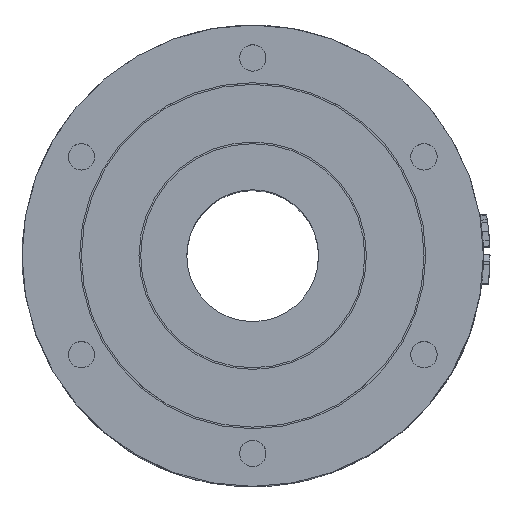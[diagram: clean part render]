
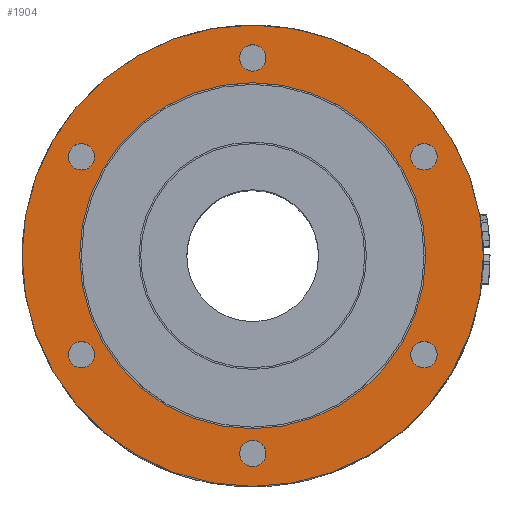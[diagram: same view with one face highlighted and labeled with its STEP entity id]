
A CAD part, top view. The second image highlights one B-rep face of the part: STEP entity #1904.
In plain terms, the highlighted planar face has unit normal (0, 0, 1).
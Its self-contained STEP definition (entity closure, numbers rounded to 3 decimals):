
#193=PLANE('',#7095);
#1904=ADVANCED_FACE('',(#2692,#2693,#2694,#2695,#2696,#2697,#2698,#2699),
#193,.F.);
#2692=FACE_BOUND('',#3149,.T.);
#2693=FACE_BOUND('',#3150,.T.);
#2694=FACE_BOUND('',#3151,.T.);
#2695=FACE_BOUND('',#3152,.T.);
#2696=FACE_BOUND('',#3153,.T.);
#2697=FACE_BOUND('',#3154,.T.);
#2698=FACE_BOUND('',#3155,.T.);
#2699=FACE_BOUND('',#3156,.T.);
#3149=EDGE_LOOP('',(#4665));
#3150=EDGE_LOOP('',(#4666));
#3151=EDGE_LOOP('',(#4667));
#3152=EDGE_LOOP('',(#4668));
#3153=EDGE_LOOP('',(#4669));
#3154=EDGE_LOOP('',(#4670));
#3155=EDGE_LOOP('',(#4671));
#3156=EDGE_LOOP('',(#4672));
#4665=ORIENTED_EDGE('',*,*,#6640,.F.);
#4666=ORIENTED_EDGE('',*,*,#6641,.F.);
#4667=ORIENTED_EDGE('',*,*,#6642,.F.);
#4668=ORIENTED_EDGE('',*,*,#6643,.F.);
#4669=ORIENTED_EDGE('',*,*,#6644,.F.);
#4670=ORIENTED_EDGE('',*,*,#6645,.F.);
#4671=ORIENTED_EDGE('',*,*,#6646,.F.);
#4672=ORIENTED_EDGE('',*,*,#6630,.F.);
#5737=VERTEX_POINT('',#15241);
#5747=VERTEX_POINT('',#15262);
#5748=VERTEX_POINT('',#15264);
#5749=VERTEX_POINT('',#15266);
#5750=VERTEX_POINT('',#15268);
#5751=VERTEX_POINT('',#15270);
#5752=VERTEX_POINT('',#15272);
#5753=VERTEX_POINT('',#15274);
#6630=EDGE_CURVE('',#5737,#5737,#6826,.T.);
#6640=EDGE_CURVE('',#5747,#5747,#6832,.T.);
#6641=EDGE_CURVE('',#5748,#5748,#6833,.T.);
#6642=EDGE_CURVE('',#5749,#5749,#6834,.T.);
#6643=EDGE_CURVE('',#5750,#5750,#6835,.T.);
#6644=EDGE_CURVE('',#5751,#5751,#6836,.T.);
#6645=EDGE_CURVE('',#5752,#5752,#6837,.T.);
#6646=EDGE_CURVE('',#5753,#5753,#6838,.T.);
#6826=CIRCLE('',#7081,35.);
#6832=CIRCLE('',#7088,2.);
#6833=CIRCLE('',#7089,2.);
#6834=CIRCLE('',#7090,2.);
#6835=CIRCLE('',#7091,2.);
#6836=CIRCLE('',#7092,2.);
#6837=CIRCLE('',#7093,2.);
#6838=CIRCLE('',#7094,26.25);
#7081=AXIS2_PLACEMENT_3D('',#15240,#8108,#8109);
#7088=AXIS2_PLACEMENT_3D('',#15261,#8126,#8127);
#7089=AXIS2_PLACEMENT_3D('',#15263,#8128,#8129);
#7090=AXIS2_PLACEMENT_3D('',#15265,#8130,#8131);
#7091=AXIS2_PLACEMENT_3D('',#15267,#8132,#8133);
#7092=AXIS2_PLACEMENT_3D('',#15269,#8134,#8135);
#7093=AXIS2_PLACEMENT_3D('',#15271,#8136,#8137);
#7094=AXIS2_PLACEMENT_3D('',#15273,#8138,#8139);
#7095=AXIS2_PLACEMENT_3D('',#15275,#8140,#8141);
#8108=DIRECTION('',(0.,0.,-1.));
#8109=DIRECTION('',(-1.,0.,0.));
#8126=DIRECTION('',(0.,0.,1.));
#8127=DIRECTION('',(1.,0.,0.));
#8128=DIRECTION('',(0.,0.,1.));
#8129=DIRECTION('',(1.,0.,0.));
#8130=DIRECTION('',(0.,0.,1.));
#8131=DIRECTION('',(1.,0.,0.));
#8132=DIRECTION('',(0.,0.,1.));
#8133=DIRECTION('',(1.,0.,0.));
#8134=DIRECTION('',(0.,0.,1.));
#8135=DIRECTION('',(1.,0.,0.));
#8136=DIRECTION('',(0.,0.,1.));
#8137=DIRECTION('',(1.,0.,0.));
#8138=DIRECTION('',(0.,0.,1.));
#8139=DIRECTION('',(-1.,0.,0.));
#8140=DIRECTION('',(0.,0.,-1.));
#8141=DIRECTION('',(-1.,0.,0.));
#15240=CARTESIAN_POINT('',(0.,0.,70.));
#15241=CARTESIAN_POINT('',(-35.,0.,70.));
#15261=CARTESIAN_POINT('',(-25.981,-15.,70.));
#15262=CARTESIAN_POINT('',(-23.981,-15.,70.));
#15263=CARTESIAN_POINT('',(0.,30.,70.));
#15264=CARTESIAN_POINT('',(2.,30.,70.));
#15265=CARTESIAN_POINT('',(0.,-30.,70.));
#15266=CARTESIAN_POINT('',(2.,-30.,70.));
#15267=CARTESIAN_POINT('',(25.981,15.,70.));
#15268=CARTESIAN_POINT('',(27.981,15.,70.));
#15269=CARTESIAN_POINT('',(-25.981,15.,70.));
#15270=CARTESIAN_POINT('',(-23.981,15.,70.));
#15271=CARTESIAN_POINT('',(25.981,-15.,70.));
#15272=CARTESIAN_POINT('',(27.981,-15.,70.));
#15273=CARTESIAN_POINT('',(0.,0.,70.));
#15274=CARTESIAN_POINT('',(-26.25,0.,70.));
#15275=CARTESIAN_POINT('',(0.,0.,70.));
